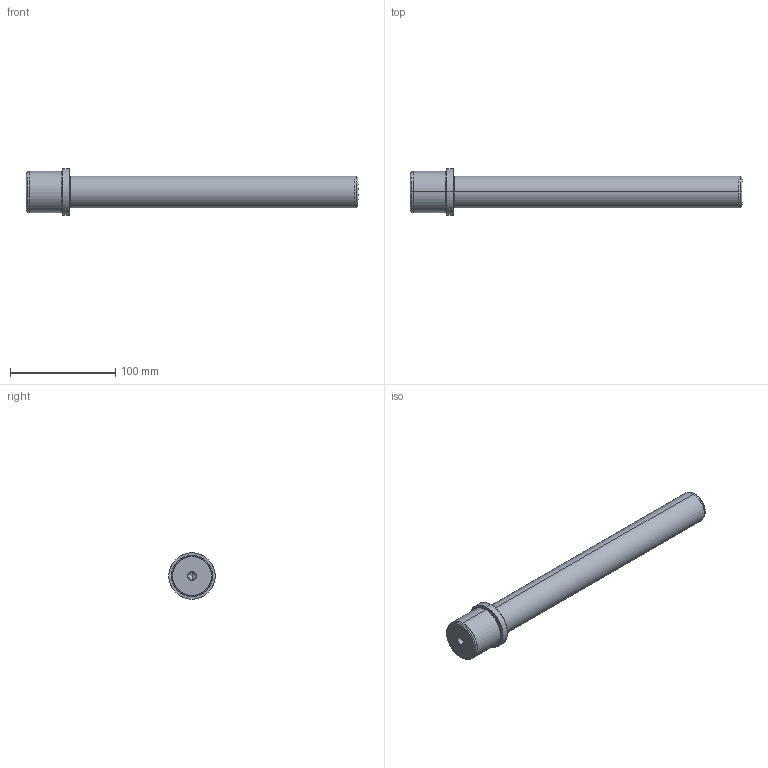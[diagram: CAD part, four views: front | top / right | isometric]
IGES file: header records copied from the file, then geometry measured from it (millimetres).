
Start section: SolidWorks IGES file using analytic representation for surfaces
Global section: file name: C:\Documents and Settings\kalite-mail\Desktop\IGS\D05\D05 - 30x280x35.IGS; native system: SolidWorks 2008; preprocessor: SolidWorks 2008; author: kalite-mail; date: 080617.111424; units: millimetre
Bounding box: 315 x 44 x 44 mm (x, y, z)
Surface area: 34172.2 mm2 (no closed solid volume)
Topology: 0 solids, 0 shells, 29 faces, 856 edges, 854 vertices
Faces by surface type: revolution 20, bspline 9
